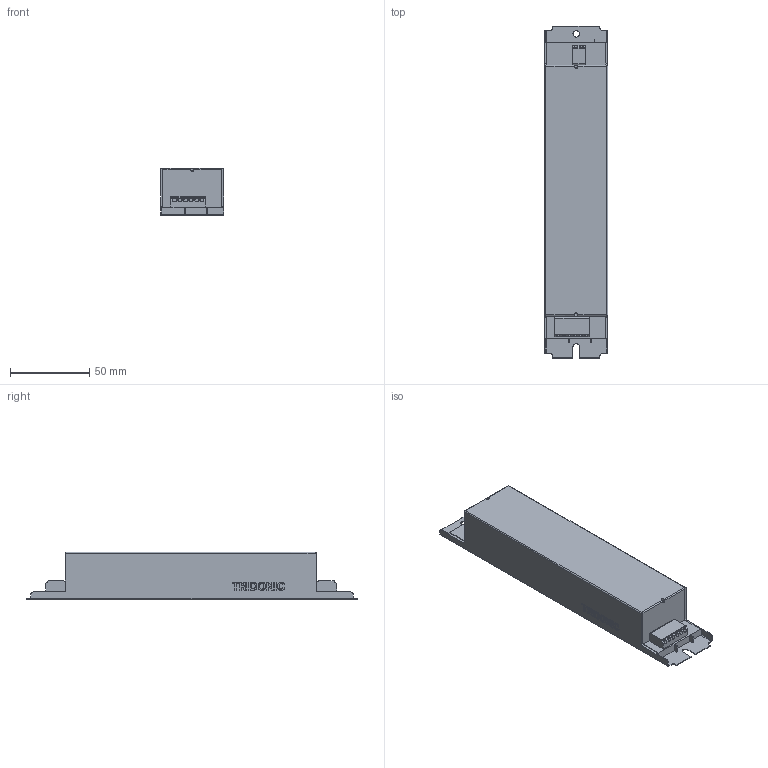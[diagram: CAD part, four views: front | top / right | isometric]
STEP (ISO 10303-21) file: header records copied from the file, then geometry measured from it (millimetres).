
FILE_DESCRIPTION((''),'2;1');
FILE_NAME('15006174Z','2012-10-17T',('juergen.hrach'),(''),'PRO/ENGINEER BY PARAMETRIC TECHNOLOGY CORPORATION, 2011310','PRO/ENGINEER BY PARAMETRIC TECHNOLOGY CORPORATION, 2011310','');
FILE_SCHEMA(('AUTOMOTIVE_DESIGN { 1 2 10303 214 0 1 1 1 }'));
Length unit declared in the file: millimetre
Products named in the file (1): 15006174Z
Bounding box: 40.3 x 210 x 30 mm (x, y, z)
Volume: 199106.2 mm3; surface area: 29656.7 mm2
Topology: 1 solids, 1 shells, 294 faces, 822 edges, 544 vertices
Faces by surface type: plane 155, cylinder 76, extrusion 59, bspline 4
Entity records: 12628 total; most frequent: CARTESIAN_POINT 2661, ORIENTED_EDGE 1644, DIRECTION 1307, PRESENTATION_STYLE_ASSIGNMENT 825, STYLED_ITEM 823, CURVE_STYLE 822, EDGE_CURVE 822, VECTOR 577
